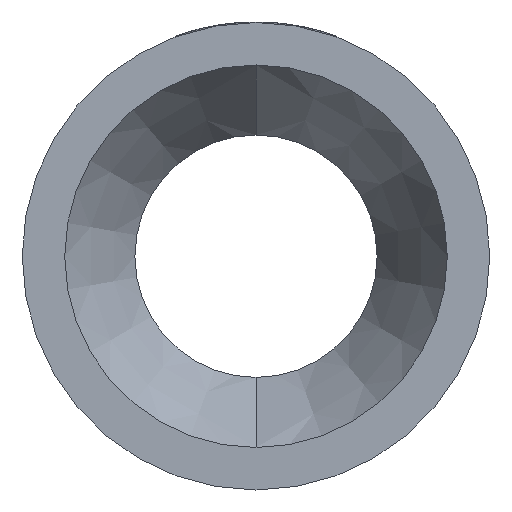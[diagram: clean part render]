
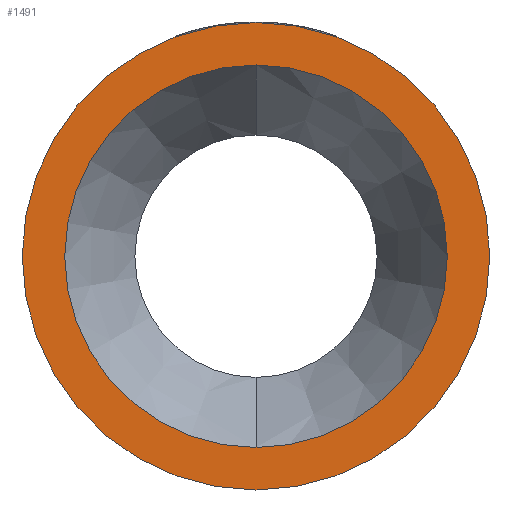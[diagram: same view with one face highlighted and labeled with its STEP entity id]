
A CAD part, left-side view. The second image highlights one B-rep face of the part: STEP entity #1491.
In plain terms, the highlighted planar face has unit normal (-1, 0, 0).
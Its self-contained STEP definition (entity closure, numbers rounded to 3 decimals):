
#11 = DIRECTION ( 'NONE',  ( 0., 0., -1. ) ) ;
#14 = DIRECTION ( 'NONE',  ( 1., 0., 0. ) ) ;
#29 = CARTESIAN_POINT ( 'NONE',  ( 0., 184.1, 0. ) ) ;
#149 = PLANE ( 'NONE',  #3127 ) ;
#150 = CIRCLE ( 'NONE', #2251, 225. ) ;
#172 = CIRCLE ( 'NONE', #2222, 184.1 ) ;
#699 = CIRCLE ( 'NONE', #2451, 225. ) ;
#753 = EDGE_CURVE ( 'NONE', #812, #1372, #150, .T. ) ;
#777 = EDGE_CURVE ( 'NONE', #2134, #2140, #172, .T. ) ;
#812 = VERTEX_POINT ( 'NONE', #971 ) ;
#813 = ORIENTED_EDGE ( 'NONE', *, *, #777, .F. ) ;
#825 = ORIENTED_EDGE ( 'NONE', *, *, #3150, .F. ) ;
#828 = ORIENTED_EDGE ( 'NONE', *, *, #2950, .T. ) ;
#845 = DIRECTION ( 'NONE',  ( 0., 0., 1. ) ) ;
#875 = ORIENTED_EDGE ( 'NONE', *, *, #753, .T. ) ;
#886 = DIRECTION ( 'NONE',  ( 0., 0., 1. ) ) ;
#895 = DIRECTION ( 'NONE',  ( -1., 0., 0. ) ) ;
#905 = CARTESIAN_POINT ( 'NONE',  ( 0., 0., 0. ) ) ;
#926 = DIRECTION ( 'NONE',  ( 0., 0., 1. ) ) ;
#930 = DIRECTION ( 'NONE',  ( -1., 0., 0. ) ) ;
#950 = CARTESIAN_POINT ( 'NONE',  ( 0., 0., 0. ) ) ;
#971 = CARTESIAN_POINT ( 'NONE',  ( 0., 0., -225. ) ) ;
#1234 = AXIS2_PLACEMENT_3D ( 'NONE', #2882, #2597, #2583 ) ;
#1314 = FACE_OUTER_BOUND ( 'NONE', #2310, .T. ) ;
#1372 = VERTEX_POINT ( 'NONE', #1869 ) ;
#1491 = ADVANCED_FACE ( 'NONE', ( #3455, #1314 ), #149, .F. ) ;
#1869 = CARTESIAN_POINT ( 'NONE',  ( 0., 0., 225. ) ) ;
#2000 = DIRECTION ( 'NONE',  ( -1., 0., 0. ) ) ;
#2034 = CARTESIAN_POINT ( 'NONE',  ( 0., 0., 0. ) ) ;
#2110 = EDGE_LOOP ( 'NONE', ( #813, #825 ) ) ;
#2134 = VERTEX_POINT ( 'NONE', #2352 ) ;
#2140 = VERTEX_POINT ( 'NONE', #2316 ) ;
#2222 = AXIS2_PLACEMENT_3D ( 'NONE', #905, #895, #886 ) ;
#2251 = AXIS2_PLACEMENT_3D ( 'NONE', #950, #930, #926 ) ;
#2310 = EDGE_LOOP ( 'NONE', ( #828, #875 ) ) ;
#2316 = CARTESIAN_POINT ( 'NONE',  ( 0., 0., -184.1 ) ) ;
#2352 = CARTESIAN_POINT ( 'NONE',  ( 0., 0., 184.1 ) ) ;
#2451 = AXIS2_PLACEMENT_3D ( 'NONE', #2034, #2000, #845 ) ;
#2583 = DIRECTION ( 'NONE',  ( 0., 0., 1. ) ) ;
#2597 = DIRECTION ( 'NONE',  ( -1., 0., 0. ) ) ;
#2882 = CARTESIAN_POINT ( 'NONE',  ( 0., 0., 0. ) ) ;
#2950 = EDGE_CURVE ( 'NONE', #1372, #812, #699, .T. ) ;
#3062 = CIRCLE ( 'NONE', #1234, 184.1 ) ;
#3127 = AXIS2_PLACEMENT_3D ( 'NONE', #29, #14, #11 ) ;
#3150 = EDGE_CURVE ( 'NONE', #2140, #2134, #3062, .T. ) ;
#3455 = FACE_BOUND ( 'NONE', #2110, .T. ) ;
